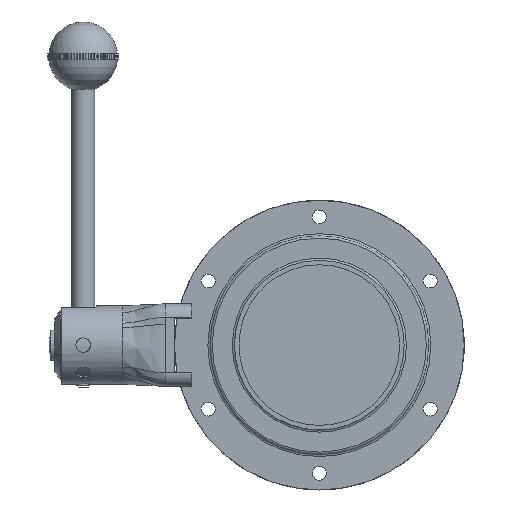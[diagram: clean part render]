
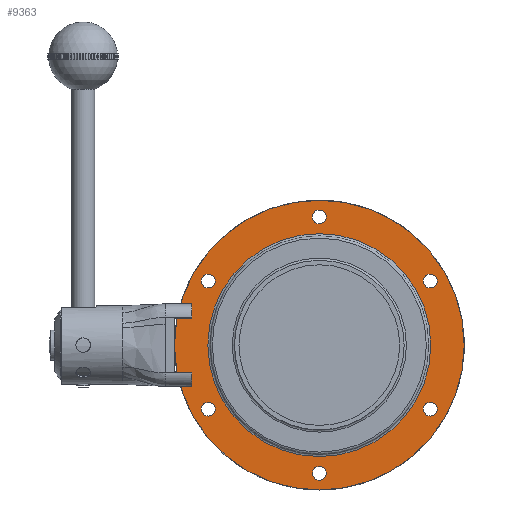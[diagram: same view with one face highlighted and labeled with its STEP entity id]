
A CAD part, left-side view. The second image highlights one B-rep face of the part: STEP entity #9363.
In plain terms, the highlighted planar face has unit normal (-1, 0, 0) as drawn and (1, 0, 0) by its records, which use the part's own axes.
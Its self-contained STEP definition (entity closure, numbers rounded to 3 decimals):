
#173=FACE_BOUND('',#2044,.T.);
#174=FACE_BOUND('',#2045,.T.);
#175=FACE_BOUND('',#2046,.T.);
#176=FACE_BOUND('',#2047,.T.);
#177=FACE_BOUND('',#2048,.T.);
#178=FACE_BOUND('',#2049,.T.);
#179=FACE_BOUND('',#2050,.T.);
#879=PLANE('',#10498);
#1411=FACE_OUTER_BOUND('',#2043,.T.);
#2043=EDGE_LOOP('',(#8366));
#2044=EDGE_LOOP('',(#8367));
#2045=EDGE_LOOP('',(#8368));
#2046=EDGE_LOOP('',(#8369));
#2047=EDGE_LOOP('',(#8370));
#2048=EDGE_LOOP('',(#8371));
#2049=EDGE_LOOP('',(#8372));
#2050=EDGE_LOOP('',(#8373));
#3573=CIRCLE('',#10466,65.);
#3586=CIRCLE('',#10484,3.1);
#3587=CIRCLE('',#10486,3.1);
#3588=CIRCLE('',#10488,3.1);
#3589=CIRCLE('',#10490,3.1);
#3590=CIRCLE('',#10492,3.1);
#3591=CIRCLE('',#10494,3.1);
#3593=CIRCLE('',#10499,50.);
#4437=VERTEX_POINT('',#22446);
#4452=VERTEX_POINT('',#22504);
#4453=VERTEX_POINT('',#22508);
#4454=VERTEX_POINT('',#22512);
#4455=VERTEX_POINT('',#22516);
#4456=VERTEX_POINT('',#22520);
#4457=VERTEX_POINT('',#22524);
#4458=VERTEX_POINT('',#22531);
#5732=EDGE_CURVE('',#4437,#4437,#3573,.T.);
#5753=EDGE_CURVE('',#4452,#4452,#3586,.T.);
#5755=EDGE_CURVE('',#4453,#4453,#3587,.T.);
#5757=EDGE_CURVE('',#4454,#4454,#3588,.T.);
#5759=EDGE_CURVE('',#4455,#4455,#3589,.T.);
#5761=EDGE_CURVE('',#4456,#4456,#3590,.T.);
#5763=EDGE_CURVE('',#4457,#4457,#3591,.T.);
#5765=EDGE_CURVE('',#4458,#4458,#3593,.T.);
#8366=ORIENTED_EDGE('',*,*,#5732,.T.);
#8367=ORIENTED_EDGE('',*,*,#5753,.T.);
#8368=ORIENTED_EDGE('',*,*,#5755,.T.);
#8369=ORIENTED_EDGE('',*,*,#5757,.T.);
#8370=ORIENTED_EDGE('',*,*,#5759,.T.);
#8371=ORIENTED_EDGE('',*,*,#5761,.T.);
#8372=ORIENTED_EDGE('',*,*,#5763,.T.);
#8373=ORIENTED_EDGE('',*,*,#5765,.F.);
#9363=ADVANCED_FACE('',(#1411,#173,#174,#175,#176,#177,#178,#179),#879,
 .T.);
#10466=AXIS2_PLACEMENT_3D('',#22447,#13035,#13036);
#10484=AXIS2_PLACEMENT_3D('',#22506,#13077,#13078);
#10486=AXIS2_PLACEMENT_3D('',#22510,#13082,#13083);
#10488=AXIS2_PLACEMENT_3D('',#22514,#13087,#13088);
#10490=AXIS2_PLACEMENT_3D('',#22518,#13092,#13093);
#10492=AXIS2_PLACEMENT_3D('',#22522,#13097,#13098);
#10494=AXIS2_PLACEMENT_3D('',#22526,#13102,#13103);
#10498=AXIS2_PLACEMENT_3D('',#22530,#13110,#13111);
#10499=AXIS2_PLACEMENT_3D('',#22532,#13112,#13113);
#13035=DIRECTION('center_axis',(1.,0.,0.));
#13036=DIRECTION('ref_axis',(0.,0.,-1.));
#13077=DIRECTION('center_axis',(-1.,0.,0.));
#13078=DIRECTION('ref_axis',(0.,0.866,0.5));
#13082=DIRECTION('center_axis',(-1.,0.,0.));
#13083=DIRECTION('ref_axis',(0.,0.866,-0.5));
#13087=DIRECTION('center_axis',(-1.,0.,0.));
#13088=DIRECTION('ref_axis',(0.,0.,-1.));
#13092=DIRECTION('center_axis',(-1.,0.,0.));
#13093=DIRECTION('ref_axis',(0.,-0.866,-0.5));
#13097=DIRECTION('center_axis',(-1.,0.,0.));
#13098=DIRECTION('ref_axis',(0.,-0.866,0.5));
#13102=DIRECTION('center_axis',(-1.,0.,0.));
#13103=DIRECTION('ref_axis',(0.,0.,1.));
#13110=DIRECTION('center_axis',(1.,0.,0.));
#13111=DIRECTION('ref_axis',(0.,0.,-1.));
#13112=DIRECTION('center_axis',(1.,0.,0.));
#13113=DIRECTION('ref_axis',(0.,0.,-1.));
#22446=CARTESIAN_POINT('',(12.,-65.,0.));
#22447=CARTESIAN_POINT('Origin',(12.,0.,0.));
#22504=CARTESIAN_POINT('',(12.,47.112,27.2));
#22506=CARTESIAN_POINT('Origin',(12.,49.796,28.75));
#22508=CARTESIAN_POINT('',(12.,47.112,-27.2));
#22510=CARTESIAN_POINT('Origin',(12.,49.796,-28.75));
#22512=CARTESIAN_POINT('',(12.,0.,-54.4));
#22514=CARTESIAN_POINT('Origin',(12.,0.,-57.5));
#22516=CARTESIAN_POINT('',(12.,-47.112,-27.2));
#22518=CARTESIAN_POINT('Origin',(12.,-49.796,-28.75));
#22520=CARTESIAN_POINT('',(12.,-47.112,27.2));
#22522=CARTESIAN_POINT('Origin',(12.,-49.796,28.75));
#22524=CARTESIAN_POINT('',(12.,0.,54.4));
#22526=CARTESIAN_POINT('Origin',(12.,0.,57.5));
#22530=CARTESIAN_POINT('Origin',(12.,50.,0.));
#22531=CARTESIAN_POINT('',(12.,0.,50.));
#22532=CARTESIAN_POINT('Origin',(12.,0.,0.));
